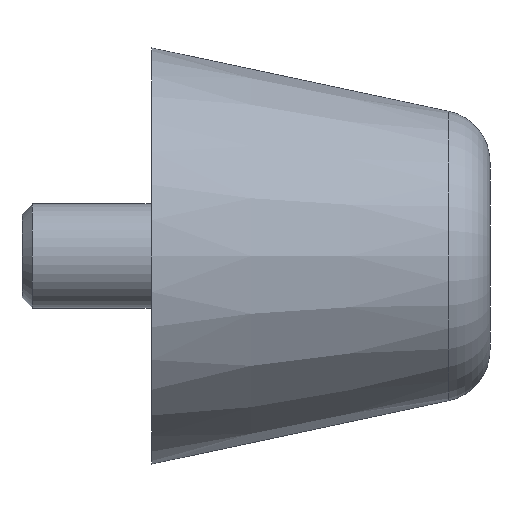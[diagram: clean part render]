
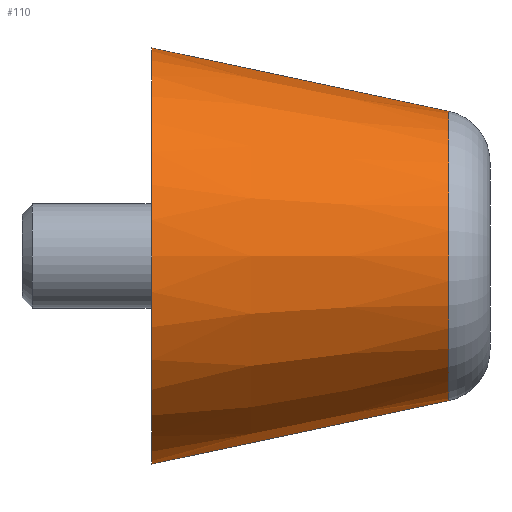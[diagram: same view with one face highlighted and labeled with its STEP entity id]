
A CAD part, left-side view. The second image highlights one B-rep face of the part: STEP entity #110.
In plain terms, the highlighted conical face has half-angle 12.05 degrees and reference radius 10.45 mm.
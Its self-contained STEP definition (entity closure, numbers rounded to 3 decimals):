
#16 = CARTESIAN_POINT ( 'NONE',  ( 0., 3.165, 11.126 ) ) ;
#66 = CARTESIAN_POINT ( 'NONE',  ( 0., 26., -16. ) ) ;
#90 = CIRCLE ( 'NONE', #309, 11.126 ) ;
#110 = ADVANCED_FACE ( 'NONE', ( #253 ), #366, .T. ) ;
#113 = LINE ( 'NONE', #192, #335 ) ;
#135 = DIRECTION ( 'NONE',  ( 0., -1., 0. ) ) ;
#139 = VECTOR ( 'NONE', #215, 1000. ) ;
#147 = VERTEX_POINT ( 'NONE', #551 ) ;
#149 = ORIENTED_EDGE ( 'NONE', *, *, #196, .T. ) ;
#192 = CARTESIAN_POINT ( 'NONE',  ( 0., 0., -10.45 ) ) ;
#196 = EDGE_CURVE ( 'NONE', #375, #147, #388, .T. ) ;
#208 = DIRECTION ( 'NONE',  ( 0., 0., 1. ) ) ;
#213 = DIRECTION ( 'NONE',  ( 0., 1., 0. ) ) ;
#215 = DIRECTION ( 'NONE',  ( 0., 0.978, 0.209 ) ) ;
#218 = CARTESIAN_POINT ( 'NONE',  ( 0., 0., 10.45 ) ) ;
#219 = VERTEX_POINT ( 'NONE', #349 ) ;
#220 = CIRCLE ( 'NONE', #299, 16. ) ;
#253 = FACE_OUTER_BOUND ( 'NONE', #298, .T. ) ;
#254 = VERTEX_POINT ( 'NONE', #66 ) ;
#255 = DIRECTION ( 'NONE',  ( 0., 0., -1. ) ) ;
#262 = DIRECTION ( 'NONE',  ( 0., 0., -1. ) ) ;
#298 = EDGE_LOOP ( 'NONE', ( #514, #422, #149, #357 ) ) ;
#299 = AXIS2_PLACEMENT_3D ( 'NONE', #306, #135, #262 ) ;
#306 = CARTESIAN_POINT ( 'NONE',  ( 0., 26., 0. ) ) ;
#309 = AXIS2_PLACEMENT_3D ( 'NONE', #547, #452, #255 ) ;
#335 = VECTOR ( 'NONE', #527, 1000. ) ;
#349 = CARTESIAN_POINT ( 'NONE',  ( 0., 3.165, -11.126 ) ) ;
#357 = ORIENTED_EDGE ( 'NONE', *, *, #537, .T. ) ;
#366 = CONICAL_SURFACE ( 'NONE', #496, 10.45, 0.21 ) ;
#375 = VERTEX_POINT ( 'NONE', #16 ) ;
#378 = EDGE_CURVE ( 'NONE', #219, #254, #113, .T. ) ;
#388 = LINE ( 'NONE', #218, #139 ) ;
#422 = ORIENTED_EDGE ( 'NONE', *, *, #482, .T. ) ;
#452 = DIRECTION ( 'NONE',  ( 0., 1., 0. ) ) ;
#482 = EDGE_CURVE ( 'NONE', #219, #375, #90, .T. ) ;
#496 = AXIS2_PLACEMENT_3D ( 'NONE', #503, #213, #208 ) ;
#503 = CARTESIAN_POINT ( 'NONE',  ( 0., 0., 0. ) ) ;
#514 = ORIENTED_EDGE ( 'NONE', *, *, #378, .F. ) ;
#527 = DIRECTION ( 'NONE',  ( 0., 0.978, -0.209 ) ) ;
#537 = EDGE_CURVE ( 'NONE', #147, #254, #220, .T. ) ;
#547 = CARTESIAN_POINT ( 'NONE',  ( 0., 3.165, 0. ) ) ;
#551 = CARTESIAN_POINT ( 'NONE',  ( 0., 26., 16. ) ) ;
